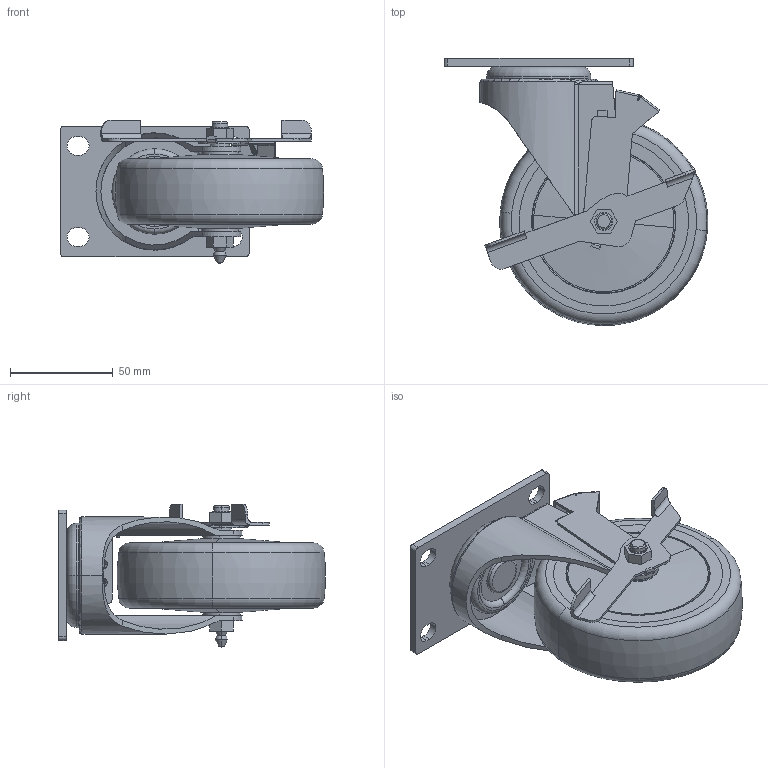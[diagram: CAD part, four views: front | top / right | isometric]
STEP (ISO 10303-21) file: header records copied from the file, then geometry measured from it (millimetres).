
FILE_DESCRIPTION (( 'STEP AP214' ), '1' );
FILE_NAME ('SCC-20S414-PPUB-TLB-BLACK 3D STEP.STEP', '2024-05-30T10:40:34', ( '' ), ( '' ), 'SwSTEP 2.0', 'SolidWorks 2016', '' );
FILE_SCHEMA (( 'AUTOMOTIVE_DESIGN' ));
Length unit declared in the file: inch
Products named in the file (1): SCC-20S414-PPUB-TLB-BLACK 3D STEP
Bounding box: 128.49 x 130.09 x 69.95 mm (x, y, z)
Volume: 369261.2 mm3; surface area: 96209.8 mm2
Topology: 5 solids, 6 shells, 428 faces, 1070 edges, 683 vertices
Faces by surface type: cylinder 156, plane 153, bspline 62, torus 45, cone 8, sphere 4
Entity records: 20744 total; most frequent: CARTESIAN_POINT 5032, ORIENTED_EDGE 2124, DIRECTION 2051, EDGE_CURVE 1062, AXIS2_PLACEMENT_3D 768, VERTEX_POINT 679, LINE 515, VECTOR 515
